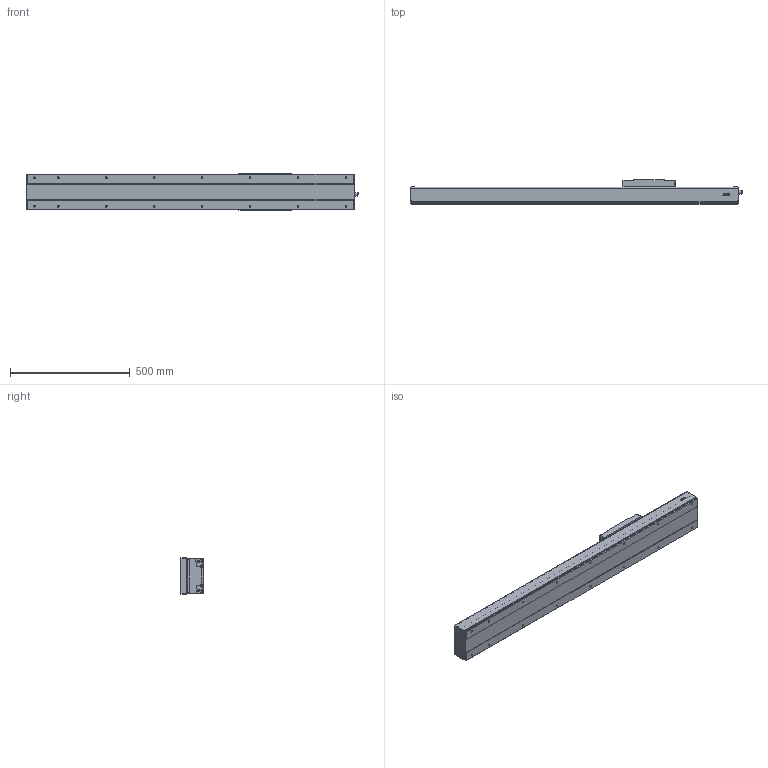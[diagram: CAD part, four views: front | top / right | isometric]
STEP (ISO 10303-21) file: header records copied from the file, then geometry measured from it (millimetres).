
FILE_DESCRIPTION(/* description */ (''),/* implementation_level */ '2;1');
FILE_NAME(/* name */ 'D:\混合母檔20191031\混和母檔\混和母檔\bin\Debug\Download\3D\KS150-10C-850AFI\KS150-10C-850AFI.stp',/* time_stamp */ '2019-11-04T15:50:51+08:00',/* author */ ('user'),/* organization */ (''),/* preprocessor_version */ 'ST-DEVELOPER v16.13',/* originating_system */ 'Autodesk Inventor 2018',/* authorisation */ '');
FILE_SCHEMA (('AUTOMOTIVE_DESIGN { 1 0 10303 214 3 1 1 }'));
Length unit declared in the file: millimetre
Products named in the file (3): KS150-10C-850AFI; KS150-FI; KS150-SL
Assembly tree (2 placements, depth 2):
  KS150-10C-850AFI
    KS150-FI
    KS150-SL
Bounding box: 1385.05 x 100 x 152.4 mm (x, y, z)
Volume: 5709196.1 mm3; surface area: 1366022.7 mm2
Topology: 4 solids, 8 shells, 1245 faces, 3285 edges, 2130 vertices
Faces by surface type: plane 615, cone 230, cylinder 192, bspline 136, torus 68, sphere 4
Full cylindrical faces by diameter (mm): 3.242 x12, 3.571 x8, 4.134 x4, 4.5 x8, 4.509 x6, 4.917 x4, 5 x18, 5.5 x12, 6 x2, 6.647 x20, 8 x4, 8.4 x8, 9.3 x12, 10.437 x1, 12 x1, 14 x1, 15 x1, 15.538 x1, 23 x1, 46 x1, 50 x1
Entity records: 41048 total; most frequent: CARTESIAN_POINT 12732, ORIENTED_EDGE 5848, DIRECTION 5441, EDGE_CURVE 2924, VERTEX_POINT 2020, AXIS2_PLACEMENT_3D 1888, LINE 1665, VECTOR 1665
